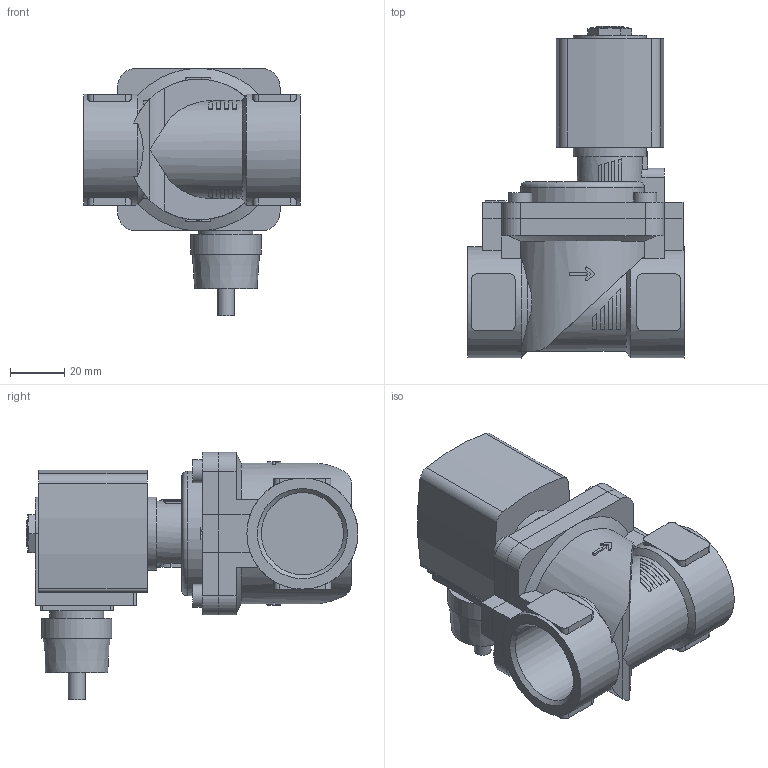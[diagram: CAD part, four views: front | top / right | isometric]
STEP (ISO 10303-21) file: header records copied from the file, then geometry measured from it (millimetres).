
FILE_DESCRIPTION(/* description */ ('STEP AP214'),/* implementation_level */ '2;1');
FILE_NAME(/* name */ '6281-378219-2_2-Way_Solenoid_Valve__Servo-assisted__General_Purpose',/* time_stamp */ '2024-06-24T11:59:11+02:00',/* author */ ('License CC BY-ND 4.0'),/* organization */ ('CADENAS'),/* preprocessor_version */ 'ST-DEVELOPER v19.3',/* originating_system */ 'PARTsolutions',/* authorisation */ ' ');
FILE_SCHEMA (('AUTOMOTIVE_DESIGN {1 0 10303 214 3 1 1}'));
Length unit declared in the file: millimetre
Products named in the file (4): 6281-378219-2/2-Way Solenoid Valve, Servo-assisted, General Purpose; 5281ev200MS2/2-Wege-Magnetventil mit Servomembran-Deckel   ; 6213-20G1MS-Gehaeuse-; AC10ex-6ATEXKabelPlan-Coil
Assembly tree (3 placements, depth 2):
  6281-378219-2/2-Way Solenoid Valve, Servo-assisted, General Purpose
    5281ev200MS2/2-Wege-Magnetventil mit Servomembran-Deckel   
    6213-20G1MS-Gehaeuse-
    AC10ex-6ATEXKabelPlan-Coil
Bounding box: 80 x 122.5 x 91.3 mm (x, y, z)
Volume: 245436.1 mm3; surface area: 50073.6 mm2
Topology: 3 solids, 3 shells, 291 faces, 746 edges, 492 vertices
Faces by surface type: plane 184, cylinder 91, cone 15, torus 1
Full cylindrical faces by diameter (mm): 6.2 x1, 8.5 x4, 9.74 x1, 20 x1, 26 x1, 27 x1, 30.291 x2, 41 x2
Entity records: 9807 total; most frequent: CARTESIAN_POINT 1768, DIRECTION 1490, ORIENTED_EDGE 1442, EDGE_CURVE 721, AXIS2_PLACEMENT_3D 542, VERTEX_POINT 484, LINE 406, VECTOR 406
